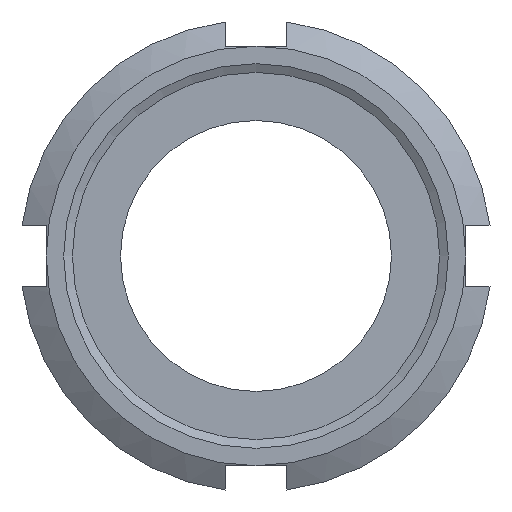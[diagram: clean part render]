
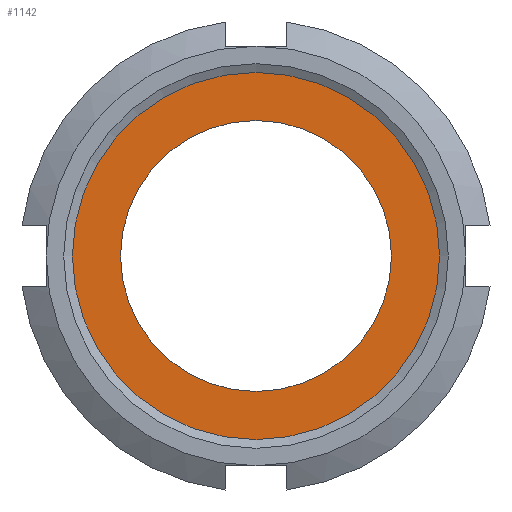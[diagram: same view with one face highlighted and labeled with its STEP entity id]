
A CAD part, front view. The second image highlights one B-rep face of the part: STEP entity #1142.
In plain terms, the highlighted planar face has unit normal (0, -1, 0).
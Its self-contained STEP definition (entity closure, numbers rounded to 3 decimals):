
#1108=CARTESIAN_POINT('',(21.0,9.309,0.0));
#1109=VERTEX_POINT('',#1108);
#1110=CARTESIAN_POINT('',(0.0,9.309,0.0));
#1111=DIRECTION('',(0.0,-1.0,0.0));
#1112=DIRECTION('',(1.0,0.0,0.0));
#1113=AXIS2_PLACEMENT_3D('',#1110,#1111,#1112);
#1114=CIRCLE('',#1113,21.0);
#1115=EDGE_CURVE('',#1109,#1109,#1114,.T.);
#1123=CARTESIAN_POINT('',(18.25,9.309,0.0));
#1124=DIRECTION('',(0.0,-1.0,0.0));
#1125=DIRECTION('',(0.0,0.0,-1.0));
#1126=AXIS2_PLACEMENT_3D('',#1123,#1124,#1125);
#1127=PLANE('',#1126);
#1128=ORIENTED_EDGE('',*,*,#1115,.T.);
#1129=EDGE_LOOP('',(#1128));
#1130=FACE_OUTER_BOUND('',#1129,.T.);
#1131=CARTESIAN_POINT('',(15.5,9.309,0.0));
#1132=VERTEX_POINT('',#1131);
#1133=CARTESIAN_POINT('',(0.0,9.309,0.0));
#1134=DIRECTION('',(0.0,-1.0,0.0));
#1135=DIRECTION('',(1.0,0.0,0.0));
#1136=AXIS2_PLACEMENT_3D('',#1133,#1134,#1135);
#1137=CIRCLE('',#1136,15.5);
#1138=EDGE_CURVE('',#1132,#1132,#1137,.T.);
#1139=ORIENTED_EDGE('',*,*,#1138,.F.);
#1140=EDGE_LOOP('',(#1139));
#1141=FACE_BOUND('',#1140,.T.);
#1142=ADVANCED_FACE('',(#1130,#1141),#1127,.T.);
